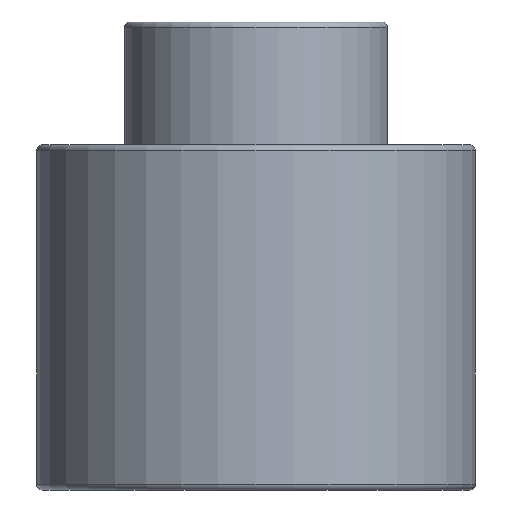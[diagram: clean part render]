
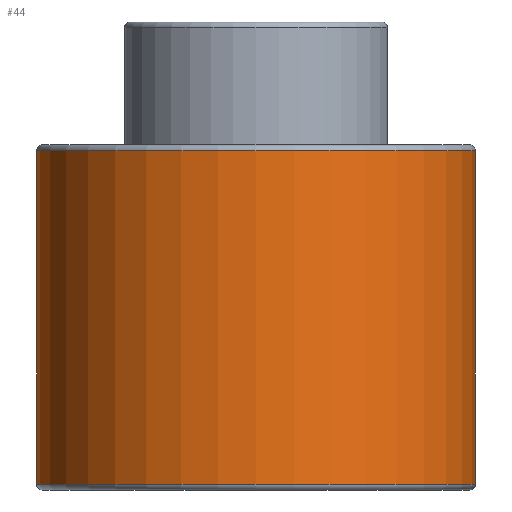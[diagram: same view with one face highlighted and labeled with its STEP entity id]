
A CAD part, front view. The second image highlights one B-rep face of the part: STEP entity #44.
In plain terms, the highlighted cylindrical face has radius 37.5 mm (diameter 75 mm), a full revolution.
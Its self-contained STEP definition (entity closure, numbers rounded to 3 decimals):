
#44=ADVANCED_FACE('',(#60,#61),#56,.T.);
#56=CYLINDRICAL_SURFACE('',#166,37.5);
#60=FACE_BOUND('',#84,.T.);
#61=FACE_BOUND('',#85,.T.);
#84=EDGE_LOOP('',(#106));
#85=EDGE_LOOP('',(#107));
#106=ORIENTED_EDGE('',*,*,#141,.F.);
#107=ORIENTED_EDGE('',*,*,#142,.T.);
#128=VERTEX_POINT('',#237);
#129=VERTEX_POINT('',#239);
#141=EDGE_CURVE('',#128,#128,#152,.T.);
#142=EDGE_CURVE('',#129,#129,#153,.T.);
#152=CIRCLE('',#164,37.5);
#153=CIRCLE('',#165,37.5);
#164=AXIS2_PLACEMENT_3D('',#236,#189,#190);
#165=AXIS2_PLACEMENT_3D('',#238,#191,#192);
#166=AXIS2_PLACEMENT_3D('',#240,#193,#194);
#189=DIRECTION('',(0.,0.,-1.));
#190=DIRECTION('',(-1.,0.,0.));
#191=DIRECTION('',(0.,0.,-1.));
#192=DIRECTION('',(-1.,0.,0.));
#193=DIRECTION('',(0.,0.,-1.));
#194=DIRECTION('',(-1.,0.,0.));
#236=CARTESIAN_POINT('',(0.,0.,1.));
#237=CARTESIAN_POINT('',(-37.5,0.,1.));
#238=CARTESIAN_POINT('',(0.,0.,58.));
#239=CARTESIAN_POINT('',(-37.5,0.,58.));
#240=CARTESIAN_POINT('',(0.,0.,0.));
